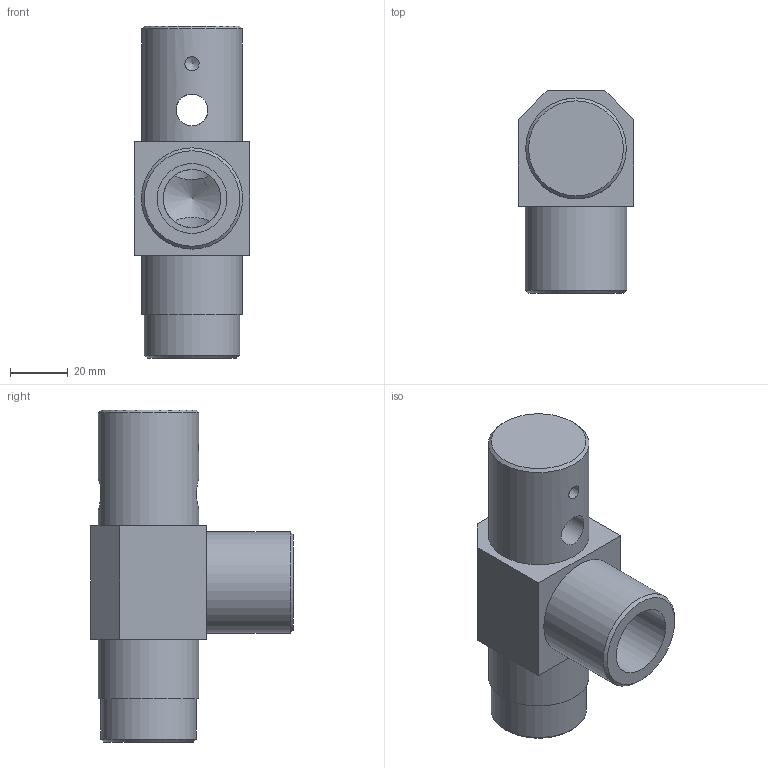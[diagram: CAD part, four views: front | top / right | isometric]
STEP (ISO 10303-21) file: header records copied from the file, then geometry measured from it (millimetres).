
FILE_DESCRIPTION( ( 'Unknown' ), '1' );
FILE_NAME( 'G:/navkite transat/construction/2016/GMA/VA/VA 04.stp', 'Unknown', ( 'Unknown' ), ( 'Unknown' ), 'XStep 1.0', 'Unknown', ' ' );
FILE_SCHEMA( ( 'CONFIG_CONTROL_DESIGN' ) );
Length unit declared in the file: millimetre
Products named in the file (1): 1
Bounding box: 40 x 70 x 114.75 mm (x, y, z)
Volume: 108822.8 mm3; surface area: 28766.5 mm2
Topology: 1 solids, 1 shells, 33 faces, 77 edges, 50 vertices
Faces by surface type: plane 14, cylinder 13, cone 6
Full cylindrical faces by diameter (mm): 4.917 x1, 11 x1, 20 x3, 24.117 x2, 33 x1, 34.8 x2, 35 x1
Entity records: 1096 total; most frequent: CARTESIAN_POINT 398, DIRECTION 140, ORIENTED_EDGE 100, AXIS2_PLACEMENT_3D 61, EDGE_LOOP 58, EDGE_CURVE 50, FACE_OUTER_BOUND 44, VERTEX_POINT 43
